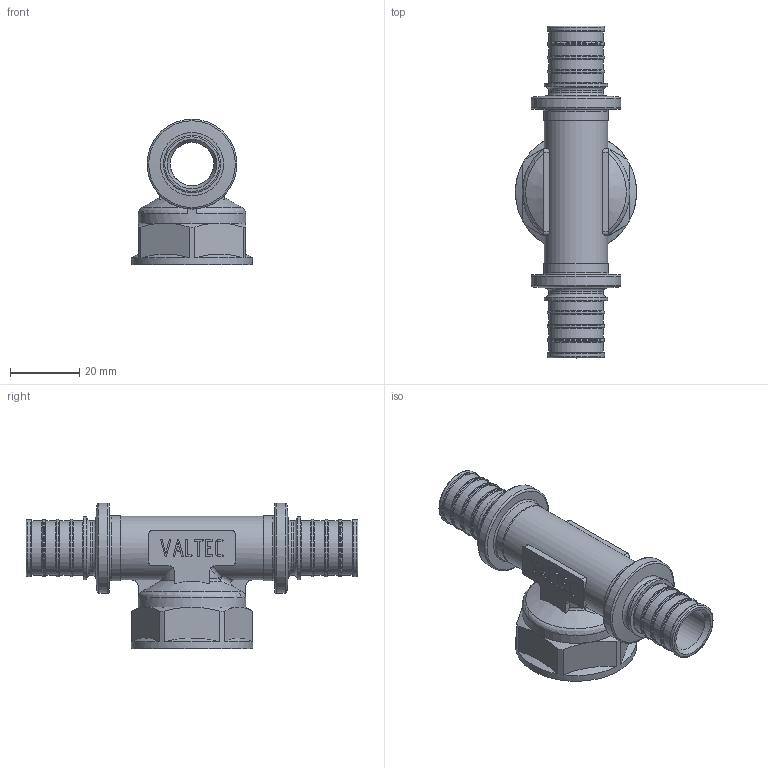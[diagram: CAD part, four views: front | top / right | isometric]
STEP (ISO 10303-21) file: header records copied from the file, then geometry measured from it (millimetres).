
FILE_DESCRIPTION(('STEP AP203'), '1');
FILE_NAME('ÂÐ.752249.018 - VTm.432.G.200520 Ôèò. òðîé. ñ ïåð', '', ('UNSPECIFIED'), ('UNSPECIFIED'), 'C3D Converter', 'C3D Toolkit', '');
FILE_SCHEMA(('CONFIG_CONTROL_DESIGN'));
Length unit declared in the file: millimetre
Products named in the file (1): ВР.752249.018
Bounding box: 34.9 x 95.6 x 41.95 mm (x, y, z)
Volume: 19846.1 mm3; surface area: 15119.2 mm2
Topology: 1 solids, 1 shells, 393 faces, 1037 edges, 663 vertices
Faces by surface type: extrusion 142, plane 129, cylinder 46, torus 46, cone 22, bspline 8
Full cylindrical faces by diameter (mm): 12.5 x2, 15.7 x10, 16.5 x8, 18.2 x2, 18.3 x1, 18.7 x2, 24.118 x1, 25.9 x2, 31 x1, 34.9 x1
Entity records: 17309 total; most frequent: CARTESIAN_POINT 5390, ORIENTED_EDGE 1906, DIRECTION 1360, EDGE_CURVE 953, VERTEX_POINT 663, VECTOR 594, B_SPLINE_CURVE_WITH_KNOTS 499, EDGE_LOOP 498
